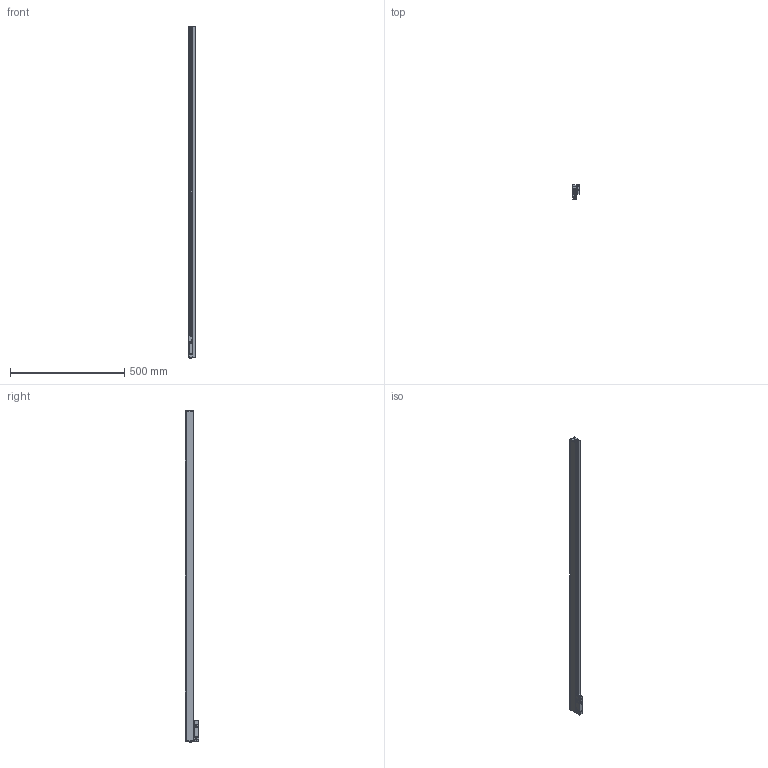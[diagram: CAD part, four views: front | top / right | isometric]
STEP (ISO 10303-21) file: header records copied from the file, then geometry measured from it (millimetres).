
FILE_DESCRIPTION(('Creo Elements/Direct Modeling STEP Export'),'2;1');
FILE_NAME('SV-1340.stp','2011-12-14T15:20:57',(''),(''),'Creo Elements/Direct Modeling STEP processor for AP214 (Solid Model)','Creo Elements/Direct Modeling 17.0C 05-Feb-2011 (C) Parametric Technology GmbH','');
FILE_SCHEMA(('AUTOMOTIVE_DESIGN { 1 0 10303 214 1 1 1 1 }'));
Length unit declared in the file: millimetre
Products named in the file (4): CABEZA_S; PERFIL_SV.1340; SOPORTE_SV.1340; REGLA_SV_1340
Assembly tree (3 placements, depth 2):
  REGLA_SV_1340
    SOPORTE_SV.1340
    PERFIL_SV.1340
    CABEZA_S
Bounding box: 28 x 60.21 x 1452 mm (x, y, z)
Volume: 1715353.2 mm3; surface area: 575263.4 mm2
Topology: 15 solids, 26 shells, 1716 faces, 4661 edges, 2995 vertices
Faces by surface type: cylinder 742, plane 669, cone 227, torus 64, sphere 12, bspline 2
Entity records: 59126 total; most frequent: CARTESIAN_POINT 12059, ORIENTED_EDGE 9330, DIRECTION 8519, EDGE_CURVE 4615, AXIS2_PLACEMENT_3D 3041, VERTEX_POINT 2995, VECTOR 2437, LINE 2437
